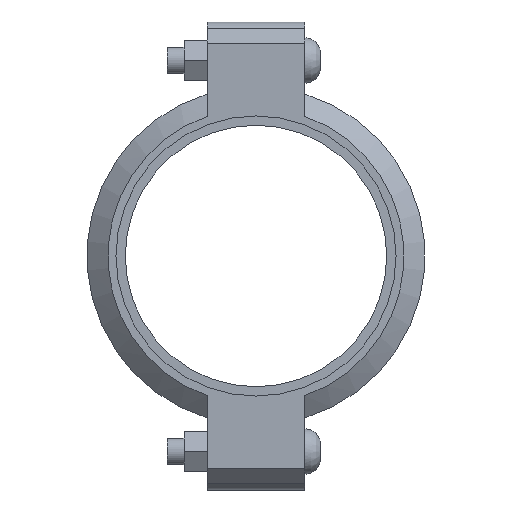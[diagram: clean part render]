
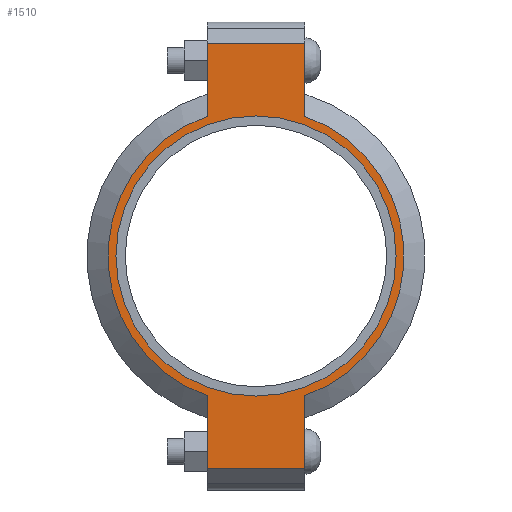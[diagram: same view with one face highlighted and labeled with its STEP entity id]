
A CAD part, left-side view. The second image highlights one B-rep face of the part: STEP entity #1510.
In plain terms, the highlighted planar face has unit normal (-1, 0, 0) as drawn and (0, 0, 1) by its records, which use the part's own axes.
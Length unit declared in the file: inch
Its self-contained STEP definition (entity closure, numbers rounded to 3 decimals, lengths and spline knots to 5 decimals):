
#134=LINE('',#2644,#227);
#142=LINE('',#2680,#235);
#149=LINE('',#2701,#242);
#158=LINE('',#2733,#251);
#159=LINE('',#2737,#252);
#160=LINE('',#2739,#253);
#227=VECTOR('',#2164,0.3937);
#235=VECTOR('',#2180,0.3937);
#242=VECTOR('',#2199,0.3937);
#251=VECTOR('',#2224,0.3937);
#252=VECTOR('',#2229,0.3937);
#253=VECTOR('',#2230,0.3937);
#309=FACE_BOUND('',#487,.T.);
#381=FACE_OUTER_BOUND('',#486,.T.);
#486=EDGE_LOOP('',(#1251,#1252,#1253,#1254,#1255,#1256,#1257,#1258));
#487=EDGE_LOOP('',(#1259));
#559=CIRCLE('',#1738,3.3125);
#585=CIRCLE('',#1797,3.5);
#586=CIRCLE('',#1798,3.5);
#651=VERTEX_POINT('',#2460);
#694=VERTEX_POINT('',#2641);
#695=VERTEX_POINT('',#2643);
#706=VERTEX_POINT('',#2675);
#707=VERTEX_POINT('',#2679);
#714=VERTEX_POINT('',#2698);
#715=VERTEX_POINT('',#2700);
#725=VERTEX_POINT('',#2736);
#726=VERTEX_POINT('',#2738);
#807=EDGE_CURVE('',#651,#651,#559,.T.);
#868=EDGE_CURVE('',#695,#694,#134,.T.);
#882=EDGE_CURVE('',#707,#706,#142,.T.);
#892=EDGE_CURVE('',#715,#714,#149,.T.);
#907=EDGE_CURVE('',#707,#694,#158,.T.);
#908=EDGE_CURVE('',#706,#715,#585,.T.);
#909=EDGE_CURVE('',#725,#714,#159,.T.);
#910=EDGE_CURVE('',#725,#726,#160,.T.);
#911=EDGE_CURVE('',#726,#695,#586,.T.);
#1251=ORIENTED_EDGE('',*,*,#907,.F.);
#1252=ORIENTED_EDGE('',*,*,#882,.T.);
#1253=ORIENTED_EDGE('',*,*,#908,.T.);
#1254=ORIENTED_EDGE('',*,*,#892,.T.);
#1255=ORIENTED_EDGE('',*,*,#909,.F.);
#1256=ORIENTED_EDGE('',*,*,#910,.T.);
#1257=ORIENTED_EDGE('',*,*,#911,.T.);
#1258=ORIENTED_EDGE('',*,*,#868,.T.);
#1259=ORIENTED_EDGE('',*,*,#807,.T.);
#1352=PLANE('',#1796);
#1510=ADVANCED_FACE('',(#381,#309),#1352,.T.);
#1738=AXIS2_PLACEMENT_3D('',#2462,#2040,#2041);
#1796=AXIS2_PLACEMENT_3D('',#2734,#2225,#2226);
#1797=AXIS2_PLACEMENT_3D('',#2735,#2227,#2228);
#1798=AXIS2_PLACEMENT_3D('',#2740,#2231,#2232);
#2040=DIRECTION('center_axis',(0.,0.,-1.));
#2041=DIRECTION('ref_axis',(1.,0.,0.));
#2164=DIRECTION('',(1.,0.,0.));
#2180=DIRECTION('',(-1.,0.,0.));
#2199=DIRECTION('',(-1.,0.,0.));
#2224=DIRECTION('',(0.,-1.,0.));
#2225=DIRECTION('center_axis',(0.,0.,1.));
#2226=DIRECTION('ref_axis',(-1.,0.,0.));
#2227=DIRECTION('center_axis',(0.,0.,1.));
#2228=DIRECTION('ref_axis',(1.,0.,0.));
#2229=DIRECTION('',(0.,1.,0.));
#2230=DIRECTION('',(1.,0.,0.));
#2231=DIRECTION('center_axis',(0.,0.,1.));
#2232=DIRECTION('ref_axis',(1.,0.,0.));
#2460=CARTESIAN_POINT('',(-3.3125,0.,1.065));
#2462=CARTESIAN_POINT('Origin',(0.,0.,1.065));
#2641=CARTESIAN_POINT('',(5.035,-1.156,1.065));
#2643=CARTESIAN_POINT('',(3.30358,-1.156,1.065));
#2644=CARTESIAN_POINT('',(5.535,-1.156,1.065));
#2675=CARTESIAN_POINT('',(3.30358,1.156,1.065));
#2679=CARTESIAN_POINT('',(5.035,1.156,1.065));
#2680=CARTESIAN_POINT('',(-5.535,1.156,1.065));
#2698=CARTESIAN_POINT('',(-5.035,1.156,1.065));
#2700=CARTESIAN_POINT('',(-3.30358,1.156,1.065));
#2701=CARTESIAN_POINT('',(-5.535,1.156,1.065));
#2733=CARTESIAN_POINT('',(5.035,-0.578,1.065));
#2734=CARTESIAN_POINT('Origin',(0.,0.,
1.065));
#2735=CARTESIAN_POINT('Origin',(0.,0.,1.065));
#2736=CARTESIAN_POINT('',(-5.035,-1.156,1.065));
#2737=CARTESIAN_POINT('',(-5.035,0.578,1.065));
#2738=CARTESIAN_POINT('',(-3.30358,-1.156,1.065));
#2739=CARTESIAN_POINT('',(5.535,-1.156,1.065));
#2740=CARTESIAN_POINT('Origin',(0.,0.,1.065));
